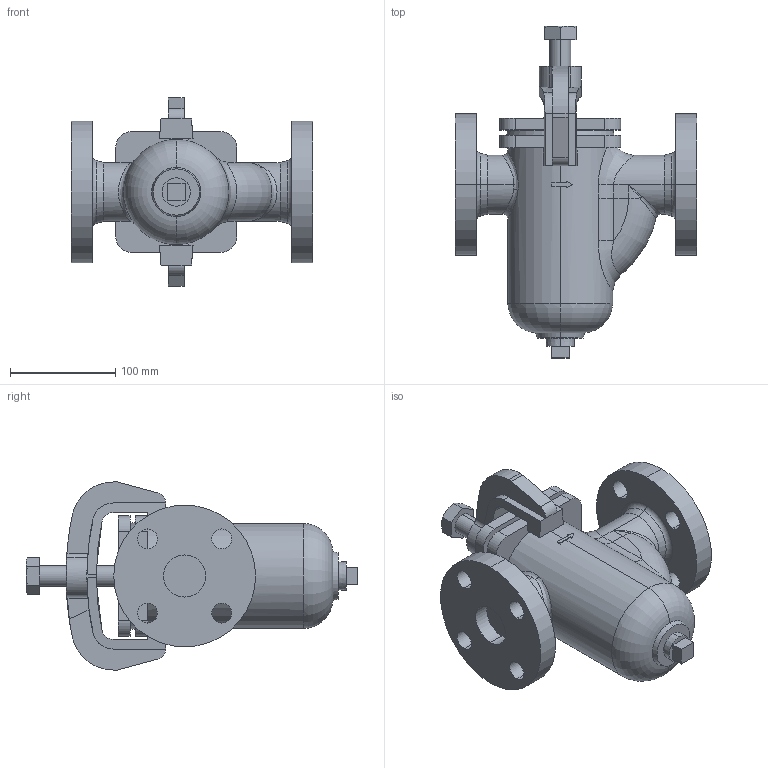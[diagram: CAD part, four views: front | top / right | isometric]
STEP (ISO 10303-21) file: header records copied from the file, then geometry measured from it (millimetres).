
FILE_DESCRIPTION (( 'STEP AP203' ), '1' );
FILE_NAME ('SU-20S 32A.STEP', '2025-12-15T02:24:26', ( '' ), ( '' ), 'SwSTEP 2.0', 'SolidWorks 2024', '' );
FILE_SCHEMA (( 'CONFIG_CONTROL_DESIGN' ));
Length unit declared in the file: millimetre
Products named in the file (4): SU-20S 32A; SU-20S Body-P 32A; SU-20S Bolt 32-65A; SU-20S Arm 32-50A
Assembly tree (3 placements, depth 2):
  SU-20S 32A
    SU-20S Body-P 32A
    SU-20S Arm 32-50A
    SU-20S Bolt 32-65A
Bounding box: 230 x 316 x 179 mm (x, y, z)
Volume: 2721601.7 mm3; surface area: 236132.7 mm2
Topology: 3 solids, 3 shells, 194 faces, 492 edges, 315 vertices
Faces by surface type: plane 79, cylinder 76, cone 19, bspline 7, torus 7, sphere 6
Entity records: 8224 total; most frequent: CARTESIAN_POINT 3148, DIRECTION 982, ORIENTED_EDGE 980, EDGE_CURVE 490, AXIS2_PLACEMENT_3D 372, VERTEX_POINT 315, VECTOR 238, LINE 238
